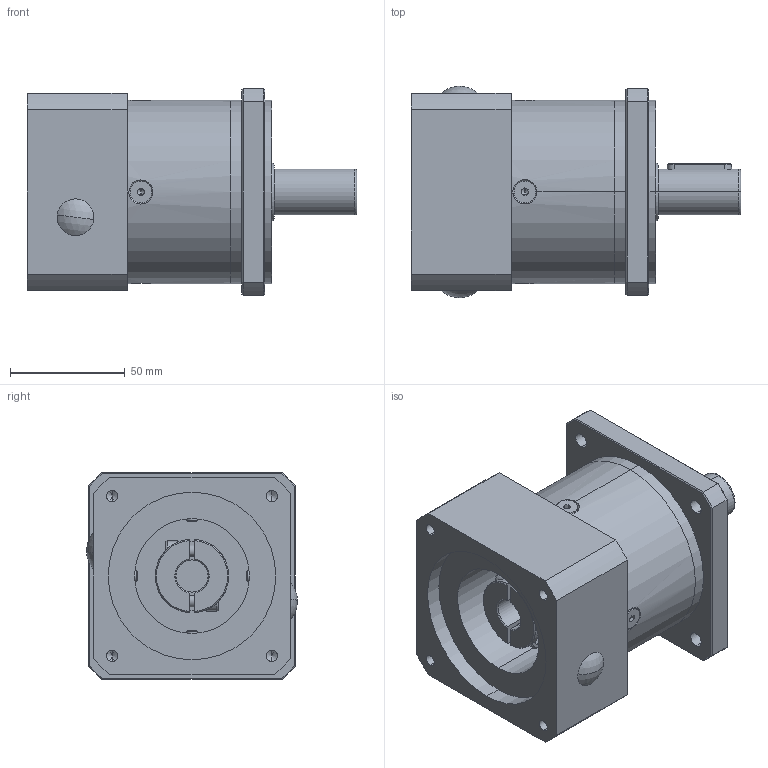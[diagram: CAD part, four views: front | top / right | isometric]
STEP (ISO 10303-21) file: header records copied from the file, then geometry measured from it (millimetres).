
FILE_DESCRIPTION (( 'STEP AP203' ), '1' );
FILE_NAME ('PF80L1-73-14-40-M6-98.5.STEP', '2022-10-17T07:06:25', ( 'PC' ), ( 'Microsoft' ), 'SwSTEP 2.0', 'SolidWorks 2016', '' );
FILE_SCHEMA (( 'CONFIG_CONTROL_DESIGN' ));
Length unit declared in the file: millimetre
Products named in the file (8): PF80一级齿圈-外形; hexagon socket countersunk head screws gb_GB_FASTENER_SCREWS_HSCHS M5X16-N; PF80输入端盖-外形73-M6-98.5; PF80黑裔; PF80薊粣ん-俋倛14; hexagon socket head cap screws gb_GB_FASTENER_SCREWS_HSHCS M5X16-N; PF80L1-73-14-40-M6-98.5; PF80怀堤傷裔-俋倛
Assembly tree (12 placements, depth 2):
  PF80L1-73-14-40-M6-98.5
    PF80怀堤傷裔-俋倛
    PF80一级齿圈-外形
    PF80输入端盖-外形73-M6-98.5
    PF80薊粣ん-俋倛14
    hexagon socket countersunk head screws gb_GB_FASTENER_SCREWS_HSCHS M5X16-N  x4
    PF80黑裔  x2
    hexagon socket head cap screws gb_GB_FASTENER_SCREWS_HSHCS M5X16-N  x2
Bounding box: 143.5 x 92 x 90 mm (x, y, z)
Volume: 466468.8 mm3; surface area: 95638.4 mm2
Topology: 13 solids, 13 shells, 375 faces, 876 edges, 529 vertices
Faces by surface type: plane 148, cylinder 126, cone 71, torus 18, sphere 12
Entity records: 9005 total; most frequent: CARTESIAN_POINT 2117, DIRECTION 1311, ORIENTED_EDGE 1170, EDGE_CURVE 585, AXIS2_PLACEMENT_3D 522, VERTEX_POINT 366, EDGE_LOOP 297, LINE 267
